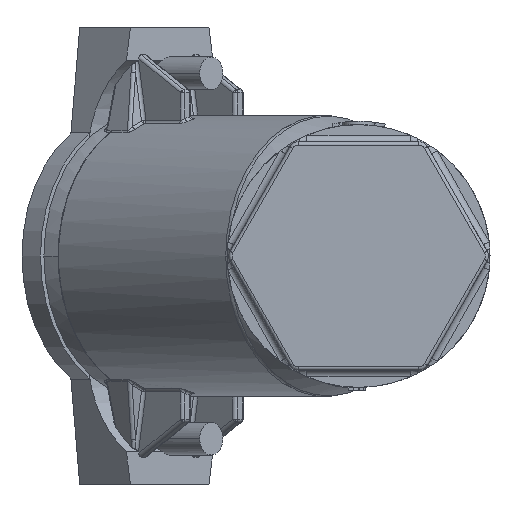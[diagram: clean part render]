
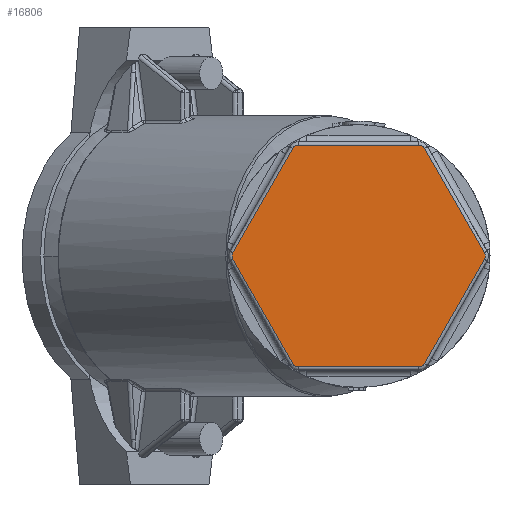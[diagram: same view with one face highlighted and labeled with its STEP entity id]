
A CAD part, left-side view. The second image highlights one B-rep face of the part: STEP entity #16806.
In plain terms, the highlighted planar face has unit normal (-1, 0, 0).
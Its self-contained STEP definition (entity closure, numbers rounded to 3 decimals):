
#5245 = CARTESIAN_POINT ( 'NONE',  ( -45.699, 36.792, 0. ) ) ;
#5246 = CARTESIAN_POINT ( 'NONE',  ( -45.699, 20.179, -32.995 ) ) ;
#5247 = CARTESIAN_POINT ( 'NONE',  ( -45.699, 38.527, -0.995 ) ) ;
#5254 = DIRECTION ( 'NONE',  ( 0., 0., 1. ) ) ;
#5255 = DIRECTION ( 'NONE',  ( -1., 0., 0. ) ) ;
#5256 = CARTESIAN_POINT ( 'NONE',  ( -45.699, -25.4, 0. ) ) ;
#5257 = AXIS2_PLACEMENT_3D ( 'NONE', #5256, #5255, #5254 ) ;
#5258 = PLANE ( 'NONE',  #5257 ) ;
#5259 = FACE_OUTER_BOUND ( 'NONE', #16744, .T. ) ;
#5264 = CARTESIAN_POINT ( 'NONE',  ( -45.699, -38.527, -0.995 ) ) ;
#5265 = CARTESIAN_POINT ( 'NONE',  ( -45.699, -38.527, 0.995 ) ) ;
#5266 = CARTESIAN_POINT ( 'NONE',  ( -45.699, -20.179, 32.995 ) ) ;
#5267 = DIRECTION ( 'NONE',  ( 0., -0.497, -0.868 ) ) ;
#5268 = VECTOR ( 'NONE', #5267, 1000. ) ;
#5269 = CARTESIAN_POINT ( 'NONE',  ( -45.699, -35.708, 5.911 ) ) ;
#5270 = LINE ( 'NONE', #5269, #5268 ) ;
#5271 = DIRECTION ( 'NONE',  ( 0., 0., 1. ) ) ;
#5272 = DIRECTION ( 'NONE',  ( -1., 0., 0. ) ) ;
#5273 = CARTESIAN_POINT ( 'NONE',  ( -45.699, -36.792, 0. ) ) ;
#5274 = AXIS2_PLACEMENT_3D ( 'NONE', #5273, #5272, #5271 ) ;
#5275 = CIRCLE ( 'NONE', #5274, 2. ) ;
#5277 = LINE ( 'NONE', #5340, #5339 ) ;
#5287 = DIRECTION ( 'NONE',  ( 0., 0., -1. ) ) ;
#5288 = DIRECTION ( 'NONE',  ( 1., 0., 0. ) ) ;
#5289 = CARTESIAN_POINT ( 'NONE',  ( -45.699, 18.444, 32. ) ) ;
#5290 = AXIS2_PLACEMENT_3D ( 'NONE', #5289, #5288, #5287 ) ;
#5291 = CIRCLE ( 'NONE', #5290, 2. ) ;
#5292 = CARTESIAN_POINT ( 'NONE',  ( -45.699, 38.527, 0.995 ) ) ;
#5293 = CARTESIAN_POINT ( 'NONE',  ( -45.699, 18.444, 34. ) ) ;
#5294 = CARTESIAN_POINT ( 'NONE',  ( -45.699, 20.179, 32.995 ) ) ;
#5295 = DIRECTION ( 'NONE',  ( 0., -0.497, 0.868 ) ) ;
#5296 = VECTOR ( 'NONE', #5295, 1000. ) ;
#5297 = CARTESIAN_POINT ( 'NONE',  ( -45.699, 23.139, 27.832 ) ) ;
#5298 = LINE ( 'NONE', #5297, #5296 ) ;
#5304 = DIRECTION ( 'NONE',  ( 0., 0., 1. ) ) ;
#5305 = DIRECTION ( 'NONE',  ( -1., 0., 0. ) ) ;
#5306 = AXIS2_PLACEMENT_3D ( 'NONE', #5245, #5305, #5304 ) ;
#5307 = CIRCLE ( 'NONE', #5306, 2. ) ;
#5316 = CARTESIAN_POINT ( 'NONE',  ( -45.699, -18.444, -34. ) ) ;
#5317 = CARTESIAN_POINT ( 'NONE',  ( -45.699, -18.444, 34. ) ) ;
#5318 = DIRECTION ( 'NONE',  ( 0., -1., 0. ) ) ;
#5319 = VECTOR ( 'NONE', #5318, 1000. ) ;
#5320 = CARTESIAN_POINT ( 'NONE',  ( -45.699, -25.4, 34. ) ) ;
#5321 = LINE ( 'NONE', #5320, #5319 ) ;
#5323 = CARTESIAN_POINT ( 'NONE',  ( -45.699, -20.179, -32.995 ) ) ;
#5324 = DIRECTION ( 'NONE',  ( 0., -1., 0. ) ) ;
#5325 = VECTOR ( 'NONE', #5324, 1000. ) ;
#5326 = CARTESIAN_POINT ( 'NONE',  ( -45.699, -25.4, -34. ) ) ;
#5327 = LINE ( 'NONE', #5326, #5325 ) ;
#5328 = DIRECTION ( 'NONE',  ( 0., 0., -1. ) ) ;
#5329 = DIRECTION ( 'NONE',  ( 1., 0., 0. ) ) ;
#5330 = CARTESIAN_POINT ( 'NONE',  ( -45.699, -18.444, 32. ) ) ;
#5331 = AXIS2_PLACEMENT_3D ( 'NONE', #5330, #5329, #5328 ) ;
#5332 = CIRCLE ( 'NONE', #5331, 2. ) ;
#5333 = DIRECTION ( 'NONE',  ( 0., 0., 1. ) ) ;
#5334 = DIRECTION ( 'NONE',  ( -1., 0., 0. ) ) ;
#5335 = CARTESIAN_POINT ( 'NONE',  ( -45.699, -18.444, -32. ) ) ;
#5336 = AXIS2_PLACEMENT_3D ( 'NONE', #5335, #5334, #5333 ) ;
#5337 = CIRCLE ( 'NONE', #5336, 2. ) ;
#5338 = DIRECTION ( 'NONE',  ( 0., -0.497, 0.868 ) ) ;
#5339 = VECTOR ( 'NONE', #5338, 1000. ) ;
#5340 = CARTESIAN_POINT ( 'NONE',  ( -45.699, -35.708, -5.911 ) ) ;
#5388 = DIRECTION ( 'NONE',  ( 0., 0., 1. ) ) ;
#5389 = DIRECTION ( 'NONE',  ( -1., 0., 0. ) ) ;
#5390 = CARTESIAN_POINT ( 'NONE',  ( -45.699, 18.444, -32. ) ) ;
#5391 = AXIS2_PLACEMENT_3D ( 'NONE', #5390, #5389, #5388 ) ;
#5392 = CIRCLE ( 'NONE', #5391, 2. ) ;
#5408 = DIRECTION ( 'NONE',  ( 0., -0.497, -0.868 ) ) ;
#5409 = VECTOR ( 'NONE', #5408, 1000. ) ;
#5410 = CARTESIAN_POINT ( 'NONE',  ( -45.699, 23.139, -27.832 ) ) ;
#5412 = LINE ( 'NONE', #5410, #5409 ) ;
#5413 = CARTESIAN_POINT ( 'NONE',  ( -45.699, 18.444, -34. ) ) ;
#16308 = ORIENTED_EDGE ( 'NONE', *, *, #17758, .F. ) ;
#16549 = ORIENTED_EDGE ( 'NONE', *, *, #16550, .T. ) ;
#16550 = EDGE_CURVE ( 'NONE', #16658, #16589, #5275, .T. ) ;
#16564 = EDGE_CURVE ( 'NONE', #16588, #16589, #5270, .T. ) ;
#16588 = VERTEX_POINT ( 'NONE', #5266 ) ;
#16589 = VERTEX_POINT ( 'NONE', #5265 ) ;
#16632 = ORIENTED_EDGE ( 'NONE', *, *, #16564, .F. ) ;
#16658 = VERTEX_POINT ( 'NONE', #5264 ) ;
#16744 = EDGE_LOOP ( 'NONE', ( #16549, #16632, #16308, #17701, #17265, #17420, #17006, #18411, #18275, #17583, #17700, #17703 ) ) ;
#16806 = ADVANCED_FACE ( 'NONE', ( #5259 ), #5258, .T. ) ;
#17006 = ORIENTED_EDGE ( 'NONE', *, *, #17149, .T. ) ;
#17062 = VERTEX_POINT ( 'NONE', #5247 ) ;
#17112 = VERTEX_POINT ( 'NONE', #5246 ) ;
#17149 = EDGE_CURVE ( 'NONE', #17292, #17062, #5307, .T. ) ;
#17241 = EDGE_CURVE ( 'NONE', #17292, #17248, #5298, .T. ) ;
#17248 = VERTEX_POINT ( 'NONE', #5294 ) ;
#17253 = VERTEX_POINT ( 'NONE', #5293 ) ;
#17265 = ORIENTED_EDGE ( 'NONE', *, *, #17360, .F. ) ;
#17292 = VERTEX_POINT ( 'NONE', #5292 ) ;
#17360 = EDGE_CURVE ( 'NONE', #17248, #17253, #5291, .T. ) ;
#17420 = ORIENTED_EDGE ( 'NONE', *, *, #17241, .F. ) ;
#17583 = ORIENTED_EDGE ( 'NONE', *, *, #17772, .T. ) ;
#17700 = ORIENTED_EDGE ( 'NONE', *, *, #17752, .T. ) ;
#17701 = ORIENTED_EDGE ( 'NONE', *, *, #17842, .F. ) ;
#17703 = ORIENTED_EDGE ( 'NONE', *, *, #17747, .T. ) ;
#17747 = EDGE_CURVE ( 'NONE', #17840, #16658, #5277, .T. ) ;
#17752 = EDGE_CURVE ( 'NONE', #17869, #17840, #5337, .T. ) ;
#17758 = EDGE_CURVE ( 'NONE', #17858, #16588, #5332, .T. ) ;
#17772 = EDGE_CURVE ( 'NONE', #18139, #17869, #5327, .T. ) ;
#17840 = VERTEX_POINT ( 'NONE', #5323 ) ;
#17842 = EDGE_CURVE ( 'NONE', #17253, #17858, #5321, .T. ) ;
#17858 = VERTEX_POINT ( 'NONE', #5317 ) ;
#17869 = VERTEX_POINT ( 'NONE', #5316 ) ;
#18139 = VERTEX_POINT ( 'NONE', #5413 ) ;
#18275 = ORIENTED_EDGE ( 'NONE', *, *, #18389, .T. ) ;
#18320 = EDGE_CURVE ( 'NONE', #17062, #17112, #5412, .T. ) ;
#18389 = EDGE_CURVE ( 'NONE', #17112, #18139, #5392, .T. ) ;
#18411 = ORIENTED_EDGE ( 'NONE', *, *, #18320, .T. ) ;
